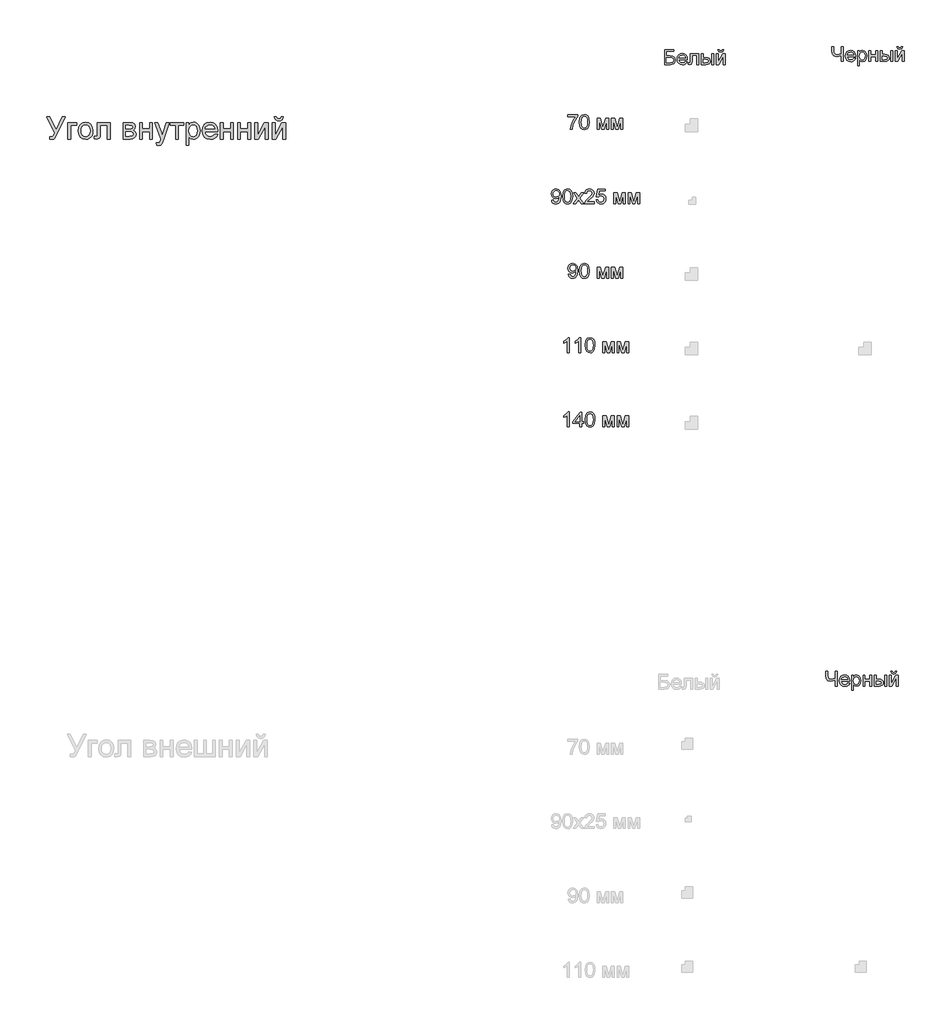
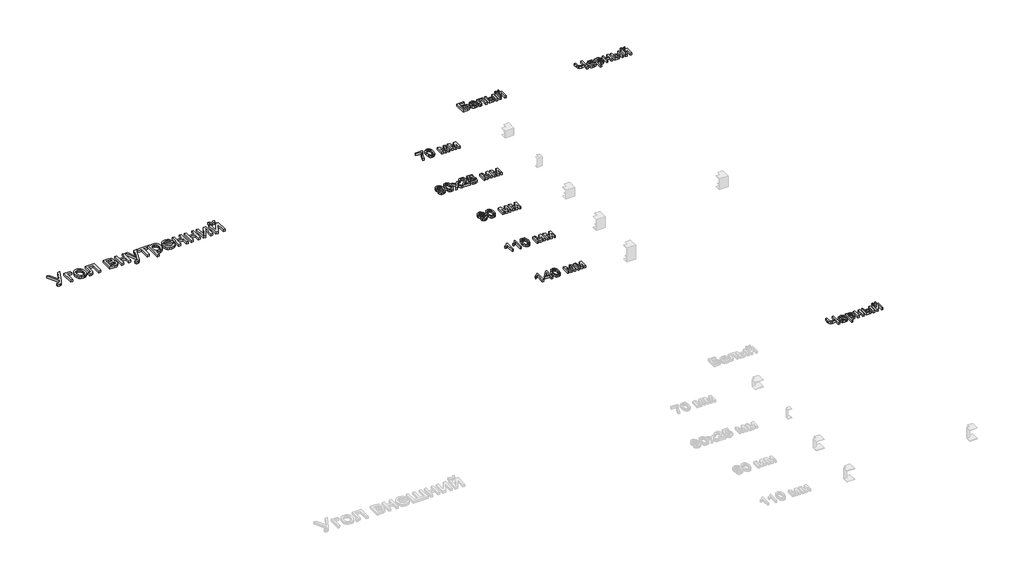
# One storey, part 11 of 48: 9 proxies.
"""IFC4 building model written with IfcOpenShell, lengths in millimetres."""

import ifcopenshell
import ifcopenshell.guid

model = None  # the IFC model being written
_history = None  # IfcOwnerHistory: only IFC2X3 demands one
_inside = {}  # id of a spatial element -> (the spatial element, [elements in it])
_under = {}  # id of a project, library or spatial element -> (it, [spatial elements below it])
_declared = {}  # id of a project -> (the project, [libraries it declares])
_typed = {}  # id of a type object -> (the type object, [elements of that type])
_made_of = {}  # id of a material, layer set ... -> (it, [elements and type objects made of it])


def new_model(schema):
    """Start an empty IFC model of exactly this schema.

    Asked for "IFC4X3", IfcOpenShell would pick the latest addendum, in which some entities
    have other attributes; the version numbers below select the first issue.
    IFC2X3 requires an IfcOwnerHistory on every rooted entity: one is made here for all.
    """
    global model, _history
    if schema == "IFC4X3":
        model = ifcopenshell.file(schema_version=(4, 3, 0, 0))
    else:
        model = ifcopenshell.file(schema=schema)
    _inside.clear()
    _under.clear()
    _declared.clear()
    _typed.clear()
    _made_of.clear()
    _history = None
    if model.schema == "IFC2X3":
        org = make("IfcOrganization", Name="unknown")
        user = make(
            "IfcPersonAndOrganization",
            ThePerson=make("IfcPerson", FamilyName="unknown"),
            TheOrganization=org,
        )
        app = make(
            "IfcApplication",
            ApplicationDeveloper=org,
            Version="unknown",
            ApplicationFullName="unknown",
            ApplicationIdentifier="unknown",
        )
        _history = make(
            "IfcOwnerHistory",
            OwningUser=user,
            OwningApplication=app,
            ChangeAction="ADDED",
            CreationDate=0,
        )
    return model


def make(cls, **values):
    """One entity of the class cls with the attributes given. An attribute that is None is left unset."""
    return model.create_entity(
        cls, **{name: value for name, value in values.items() if value is not None}
    )


def rooted(cls, **values):
    """An entity with a GlobalId (a new one), such as an element, a storey or a relation."""
    return make(cls, GlobalId=ifcopenshell.guid.new(), OwnerHistory=_history, **values)


def si_unit(unit_type, name, prefix=None):
    """IfcSIUnit, for example si_unit("LENGTHUNIT", "METRE", prefix="MILLI")."""
    return make("IfcSIUnit", UnitType=unit_type, Prefix=prefix, Name=name)


def assignment(units):
    """IfcUnitAssignment: the units of a project."""
    return None if units is None else make("IfcUnitAssignment", Units=units)


def point(xyz):
    """IfcCartesianPoint."""
    return None if xyz is None else make("IfcCartesianPoint", Coordinates=xyz)


def direction(xyz):
    """IfcDirection."""
    return None if xyz is None else make("IfcDirection", DirectionRatios=xyz)


def frame(location, z_axis=None, x_axis=None):
    """IfcAxis2Placement3D, a coordinate frame: its origin and axes. An axis left out is left unset."""
    return make(
        "IfcAxis2Placement3D",
        Location=point(location),
        Axis=direction(z_axis),
        RefDirection=direction(x_axis),
    )


def origin():
    """The frame at (0, 0, 0) with its axes left unset."""
    return frame((0.0, 0.0, 0.0))


def origin_with_axes():
    """The frame at (0, 0, 0) with the z axis (0, 0, 1) and the x axis (1, 0, 0) written out."""
    return frame((0.0, 0.0, 0.0), z_axis=(0.0, 0.0, 1.0), x_axis=(1.0, 0.0, 0.0))


def place(relative_to, where):
    """IfcLocalPlacement: puts the frame where relative to a parent placement (None: the world)."""
    return make(
        "IfcLocalPlacement", PlacementRelTo=relative_to, RelativePlacement=where
    )


def context(
    kind, dimensions, precision=None, world=None, true_north=None, identifier=None
):
    """IfcGeometricRepresentationContext, for example the 3D "Model" context."""
    return make(
        "IfcGeometricRepresentationContext",
        ContextIdentifier=identifier,
        ContextType=kind,
        CoordinateSpaceDimension=dimensions,
        Precision=precision,
        WorldCoordinateSystem=world,
        TrueNorth=true_north,
    )


def project(units=None, contexts=None):
    """IfcProject with its units and contexts."""
    return rooted(
        "IfcProject",
        Name="project",
        RepresentationContexts=contexts,
        UnitsInContext=assignment(units),
    )


def spatial(cls, under=None, at=None, **own):
    """A site, building, storey or space (cls), placed at a placement, below another one or the project."""
    s = rooted(cls, ObjectPlacement=at, **own)
    if under is not None:
        _under.setdefault(under.id(), (under, []))[1].append(s)
    return s


def polyline(points):
    """IfcPolyline through the points."""
    return make("IfcPolyline", Points=[point(p) for p in points])


def outline(outer, holes=None, kind="AREA"):
    """IfcArbitraryClosedProfileDef: a profile drawn as a closed curve; with holes, ...WithVoids."""
    if holes is None:
        return make("IfcArbitraryClosedProfileDef", ProfileType=kind, OuterCurve=outer)
    return make(
        "IfcArbitraryProfileDefWithVoids",
        ProfileType=kind,
        OuterCurve=outer,
        InnerCurves=holes,
    )


def extrude(swept, where, along, depth):
    """IfcExtrudedAreaSolid: the profile swept, set in the frame where, extruded along a direction by depth."""
    return make(
        "IfcExtrudedAreaSolid",
        SweptArea=swept,
        Position=where,
        ExtrudedDirection=direction(along),
        Depth=depth,
    )


def shape(context_of_items, identifier, shape_type, items):
    """IfcShapeRepresentation: the items that make up one representation, for example the "Body"."""
    return make(
        "IfcShapeRepresentation",
        ContextOfItems=context_of_items,
        RepresentationIdentifier=identifier,
        RepresentationType=shape_type,
        Items=items,
    )


def made_of(thing, what):
    """Note that an element or type object is made of a material, layer set ...; save() writes the relation."""
    if what is not None:
        _made_of.setdefault(what.id(), (what, []))[1].append(thing)
    return thing


def element(
    cls,
    number,
    at=None,
    inside=None,
    cuts=None,
    type_object=None,
    material=None,
    context=None,
    identifier="Body",
    shape_type=None,
    held_by="IfcProductDefinitionShape",
    body=None,
    shapes=None,
    **own,
):
    """One element of the class cls, such as IfcWall. Its Tag is "e" and its number.

    at: its placement. inside: the storey or other place that contains it. cuts: it is an
    opening in that element (IfcRelVoidsElement). A single representation is given by context,
    identifier, shape_type and body (its items); several are given by shapes. held_by: the class
    of the entity that holds the representations. save() writes the other relations.
    """
    e = rooted(cls, Tag="e%d" % number, ObjectPlacement=at, **own)
    if body is not None:
        shapes = [shape(context, identifier, shape_type, body)]
    if shapes is not None:
        e.Representation = make(held_by, Representations=shapes)
    if inside is not None:
        _inside.setdefault(inside.id(), (inside, []))[1].append(e)
    if cuts is not None:
        rooted(
            "IfcRelVoidsElement", RelatingBuildingElement=cuts, RelatedOpeningElement=e
        )
    if type_object is not None:
        _typed.setdefault(type_object.id(), (type_object, []))[1].append(e)
    return made_of(e, material)


def aggregate(whole, parts):
    """IfcRelAggregates: a whole, such as a stair, and the parts it consists of."""
    return rooted("IfcRelAggregates", RelatingObject=whole, RelatedObjects=parts)


def save(model, path):
    """Write the relations noted so far, then the file.

    IfcRelAggregates (storeys below a building ...), IfcRelContainedInSpatialStructure (elements
    in a storey), IfcRelDefinesByType, IfcRelAssociatesMaterial and IfcRelDeclares: one each for
    every whole, place, type object, material and project.
    """
    for whole, parts in _under.values():
        aggregate(whole, parts)
    for where, things in _inside.values():
        rooted(
            "IfcRelContainedInSpatialStructure",
            RelatedElements=things,
            RelatingStructure=where,
        )
    for kind, things in _typed.values():
        rooted("IfcRelDefinesByType", RelatedObjects=things, RelatingType=kind)
    for what, things in _made_of.values():
        rooted("IfcRelAssociatesMaterial", RelatedObjects=things, RelatingMaterial=what)
    for by, libraries in _declared.values():
        rooted("IfcRelDeclares", RelatingContext=by, RelatedDefinitions=libraries)
    model.write(path)


model = new_model("IFC4")

# Units and contexts
model_context = context("Model", 3, world=origin())
ifc_project = project(units=[si_unit("LENGTHUNIT", "METRE", prefix="MILLI")], contexts=[model_context])

# Site, building, storey
site = spatial("IfcSite", under=ifc_project)
building = spatial("IfcBuilding", under=site)
storey = spatial("IfcBuildingStorey", under=building, Name="Этаж 01", Elevation=0.0)

# Proxies
placement = place(None, origin())
element("IfcBuildingElementProxy", 1, Name="150 мм Arial", ObjectType="150 мм Arial", at=placement, inside=storey, context=model_context, shape_type="SweptSolid", body=[
    extrude(outline(polyline([(8696.2337911, -8936.7458416), (8717.0927002, -8936.7458416), (8762.1582446, -9025.9940136), (8802.6988405, -8936.7458416), (8823.3738086, -8936.7458416), (8766.1681584, -9054.1369862), (8750.60675, -9082.9789346), (8743.2215189, -9088.0832973), (8733.2059316, -9089.7847515), (8716.2465716, -9087.4303068), (8716.2465716, -9070.9491934), (8731.0722161, -9070.9491934), (8742.0718877, -9066.7553386), (8752.262219, -9047.6622631), (8696.2337911, -8936.7458416)])), origin_with_axes(), (0.0, 0.0, 1.0), 20.0),
    extrude(outline(polyline([(8838.6776996, -8976.7714026), (8899.8932636, -8976.7714026), (8899.8932636, -8995.6069608), (8857.5132578, -8995.6069608), (8857.5132578, -9087.4303068), (8838.6776996, -9087.4303068), (8838.6776996, -8976.7714026)])), origin_with_axes(), (0.0, 0.0, 1.0), 20.0),
    extrude(outline(polyline([(8909.3110427, -9032.1008547), (8913.3853358, -9005.420213), (8925.6082151, -8986.6674283), (8940.709771, -8977.4795755), (8958.7911711, -8974.4169579), (8978.5786239, -8978.1463616), (8994.3837541, -8989.3345728), (9004.7442308, -9007.0986746), (9008.197723, -9030.5557503), (9006.6710127, -9049.5844465), (9002.0908819, -9064.0698001), (8994.5906877, -9074.9177204), (8984.3037874, -9083.0341169), (8972.0855067, -9088.0970929), (8958.7911711, -9089.7847515), (8938.764595, -9086.0691434), (8922.9778588, -9074.9223189), (8912.7277467, -9056.7857366), (8909.3110427, -9032.1008547)]), holes=[polyline([(8928.1466009, -9032.0640665), (8930.3263017, -9049.1107985), (8936.8654042, -9061.2555028), (8946.7062475, -9068.5257708), (8958.7911711, -9070.9491934), (8970.8209123, -9068.5119752), (8980.6433616, -9061.2003205), (8987.182464, -9048.8946678), (8989.3621649, -9031.4754553), (8987.1686685, -9014.9253641), (8980.5881793, -9002.9462066), (8970.7519344, -8995.6759387), (8958.7911711, -8993.252516), (8946.7062475, -8995.6667416), (8936.8654042, -9002.9094184), (8930.3263017, -9015.0265316), (8928.1466009, -9032.0640665)])]), origin_with_axes(), (0.0, 0.0, 1.0), 20.0),
    extrude(outline(polyline([(9038.805505, -8976.7714026), (9123.5655167, -8976.7714026), (9123.5655167, -9087.3199422), (9104.7299586, -9087.3199422), (9104.7299586, -8995.6069608), (9057.6410632, -8995.6069608), (9057.6410632, -9048.3980271), (9056.3718703, -9072.7518152), (9049.4005065, -9083.0341169), (9032.9193931, -9087.4303068), (9017.6155021, -9086.4738136), (9017.6155021, -9068.5947486), (9026.0399998, -9068.5947486), (9034.556468, -9067.4359203), (9037.9593764, -9063.7571004), (9038.805505, -9047.3311693), (9038.805505, -8976.7714026)])), origin_with_axes(), (0.0, 0.0, 1.0), 20.0),
    extrude(outline(polyline([(9210.6799732, -8976.7714026), (9252.1770622, -8976.7714026), (9274.9305636, -8979.2913943), (9287.7328571, -8988.5252324), (9293.0855401, -9004.6200697), (9289.8481785, -9017.6982746), (9280.0993057, -9027.0240832), (9292.7544463, -9037.2328085), (9297.7944296, -9054.9831148), (9294.6030533, -9069.3397097), (9287.0154872, -9079.4472675), (9275.00414, -9085.434547), (9258.5414207, -9087.4303068), (9210.6799732, -9087.4303068), (9210.6799732, -8976.7714026)]), holes=[polyline([(9229.5155313, -9019.1514085), (9248.1303603, -9019.1514085), (9263.4894336, -9018.1949153), (9270.9574381, -9014.3689425), (9274.2499819, -9007.452761), (9272.8060451, -9001.8333636), (9268.4742346, -8998.2189229), (9248.7189715, -8995.6069608), (9229.5155313, -8995.6069608), (9229.5155313, -9019.1514085)]), polyline([(9229.5155313, -9068.5947486), (9252.6185206, -9068.5947486), (9273.1095477, -9065.1918402), (9277.3493877, -9060.5519285), (9278.9588715, -9053.4380104), (9275.739904, -9044.3697192), (9267.3521945, -9039.0906126), (9250.7791106, -9037.9869666), (9229.5155313, -9037.9869666), (9229.5155313, -9068.5947486)])]), origin_with_axes(), (0.0, 0.0, 1.0), 20.0),
    extrude(outline(polyline([(9321.3388773, -8976.7714026), (9340.1744355, -8976.7714026), (9340.1744355, -9019.1514085), (9389.6177756, -9019.1514085), (9389.6177756, -8976.7714026), (9408.4533338, -8976.7714026), (9408.4533338, -9087.4303068), (9389.6177756, -9087.4303068), (9389.6177756, -9037.9869666), (9340.1744355, -9037.9869666), (9340.1744355, -9087.4303068), (9321.3388773, -9087.4303068), (9321.3388773, -8976.7714026)])), origin_with_axes(), (0.0, 0.0, 1.0), 20.0),
    extrude(outline(polyline([(9436.706671, -9129.8103126), (9434.3522262, -9111.6737303), (9443.9171581, -9113.3291992), (9452.8566906, -9111.250666), (9458.3381323, -9105.4565245), (9463.4884803, -9091.5873733), (9464.9600082, -9087.0256366), (9424.9344472, -8976.7714026), (9444.8000749, -8976.7714026), (9466.026866, -9038.2076958), (9473.4212941, -9062.7822131), (9480.8157222, -9041.0771754), (9502.6311245, -8976.7714026), (9522.3495995, -8976.7714026), (9483.8323546, -9090.0790571), (9473.8259643, -9114.6535744), (9462.8998691, -9127.9341144), (9448.2213775, -9132.1647574), (9436.706671, -9129.8103126)])), origin_with_axes(), (0.0, 0.0, 1.0), 20.0),
    extrude(outline(polyline([(9528.530017, -8976.7714026), (9617.9989182, -8976.7714026), (9617.9989182, -8995.6069608), (9582.6822467, -8995.6069608), (9582.6822467, -9087.4303068), (9563.8466885, -9087.4303068), (9563.8466885, -8995.6069608), (9528.530017, -8995.6069608), (9528.530017, -8976.7714026)])), origin_with_axes(), (0.0, 0.0, 1.0), 20.0),
    extrude(outline(polyline([(9634.4800316, -9129.8103126), (9634.4800316, -8976.7714026), (9653.3155898, -8976.7714026), (9653.3155898, -8995.2390788), (9666.3386124, -8979.6224881), (9683.9233718, -8974.4169579), (9696.6612858, -8976.2379737), (9707.7989132, -8981.7010214), (9716.8672044, -8990.4750069), (9723.3971098, -9002.2288367), (9728.6578224, -9031.2547261), (9727.1724988, -9047.363359), (9722.7165282, -9061.7705376), (9715.4324646, -9073.7450966), (9705.4628626, -9082.5558703), (9693.8515871, -9087.9775312), (9681.6425034, -9089.7847515), (9665.2533605, -9084.9471033), (9653.3155898, -9072.715027), (9653.3155898, -9129.8103126), (9634.4800316, -9129.8103126)]), holes=[polyline([(9653.3155898, -9032.9837715), (9655.3527363, -9049.8695551), (9661.464176, -9061.6785671), (9670.4818834, -9068.6315368), (9681.2378332, -9070.9491934), (9692.168527, -9068.5487634), (9701.4161606, -9061.3474733), (9707.7207383, -9049.1061999), (9709.8222642, -9031.5858199), (9707.7713221, -9014.7920068), (9701.6184957, -9002.8174479), (9692.6145839, -8995.643749), (9682.0103854, -8993.252516), (9671.3648001, -8995.7955003), (9662.0159989, -9003.4244532), (9655.4906921, -9015.9002513), (9653.3155898, -9032.9837715)])]), origin_with_axes(), (0.0, 0.0, 1.0), 20.0),
    extrude(outline(polyline([(9827.3237735, -9054.46808), (9845.7914496, -9056.8225248), (9839.137384, -9070.7376612), (9828.51939, -9081.1395247), (9814.1765907, -9087.6234448), (9796.3481095, -9089.7847515), (9774.2475986, -9086.0553478), (9757.2422534, -9074.8671366), (9746.3989316, -9056.946685), (9742.784491, -9033.0205597), (9746.4357198, -9008.2896926), (9757.3894062, -8989.7944253), (9774.1648252, -8978.2613247), (9795.2812517, -8974.4169579), (9815.7400892, -8978.2521277), (9832.0878453, -8989.7576371), (9842.807007, -9008.2161162), (9846.3800608, -9032.9101951), (9846.2696962, -9037.9869666), (9761.6200491, -9037.9869666), (9764.8804033, -9052.0860441), (9772.4541739, -9062.4511193), (9783.3848677, -9068.8246749), (9796.7159915, -9070.9491934), (9815.1836676, -9067.012856), (9827.3237735, -9054.46808)]), holes=[polyline([(9761.6200491, -9019.1514085), (9827.5445027, -9019.1514085), (9824.9969199, -9009.2002005), (9820.0029218, -9002.0816839), (9809.0216442, -8995.459808), (9795.2076753, -8993.252516), (9782.5111479, -8995.0137511), (9772.0127155, -9000.2974562), (9764.7148564, -9008.5334144), (9761.6200491, -9019.1514085)])]), origin_with_axes(), (0.0, 0.0, 1.0), 20.0),
    extrude(outline(polyline([(9865.215619, -8976.7714026), (9884.0511771, -8976.7714026), (9884.0511771, -9019.1514085), (9933.4945173, -9019.1514085), (9933.4945173, -8976.7714026), (9952.3300754, -8976.7714026), (9952.3300754, -9087.4303068), (9933.4945173, -9087.4303068), (9933.4945173, -9037.9869666), (9884.0511771, -9037.9869666), (9884.0511771, -9087.4303068), (9865.215619, -9087.4303068), (9865.215619, -8976.7714026)])), origin_with_axes(), (0.0, 0.0, 1.0), 20.0),
    extrude(outline(polyline([(9980.5834127, -8976.7714026), (9999.4189708, -8976.7714026), (9999.4189708, -9019.1514085), (10048.862311, -9019.1514085), (10048.862311, -8976.7714026), (10067.6978691, -8976.7714026), (10067.6978691, -9087.4303068), (10048.862311, -9087.4303068), (10048.862311, -9037.9869666), (9999.4189708, -9037.9869666), (9999.4189708, -9087.4303068), (9980.5834127, -9087.4303068), (9980.5834127, -8976.7714026)])), origin_with_axes(), (0.0, 0.0, 1.0), 20.0),
    extrude(outline(polyline([(10095.9512064, -8976.7714026), (10114.7867645, -8976.7714026), (10114.7867645, -9061.1635323), (10161.0663195, -8976.7714026), (10185.4201076, -8976.7714026), (10185.4201076, -9087.4303068), (10166.5845494, -9087.4303068), (10166.5845494, -9003.5532119), (10120.5993, -9087.4303068), (10095.9512064, -9087.4303068), (10095.9512064, -8976.7714026)])), origin_with_axes(), (0.0, 0.0, 1.0), 20.0),
    extrude(outline(polyline([(10213.6734448, -8976.7714026), (10232.509003, -8976.7714026), (10232.509003, -9061.1635323), (10278.788558, -8976.7714026), (10303.142346, -8976.7714026), (10303.142346, -9087.4303068), (10284.3067879, -9087.4303068), (10284.3067879, -9003.5532119), (10238.3215385, -9087.4303068), (10213.6734448, -9087.4303068), (10213.6734448, -8976.7714026)])), origin_with_axes(), (0.0, 0.0, 1.0), 20.0),
    extrude(outline(polyline([(10274.8890088, -8936.7458416), (10289.0156774, -8936.7458416), (10285.9760524, -8948.8077725), (10279.8738098, -8957.6967212), (10270.9848611, -8963.1735644), (10259.5851178, -8964.9991788), (10247.2150857, -8963.18736), (10237.6225627, -8957.7519035), (10231.0650661, -8948.8767503), (10227.8001134, -8936.7458416), (10241.926782, -8936.7458416), (10247.2242828, -8947.3592371), (10257.8928606, -8950.8725102), (10269.5915081, -8947.4696017), (10274.8890088, -8936.7458416)])), origin_with_axes(), (0.0, 0.0, 1.0), 20.0),
])
element("IfcBuildingElementProxy", 2, Name="100 мм Arial", ObjectType="100 мм Arial", at=placement, inside=storey, context=model_context, shape_type="SweptSolid", body=[
    extrude(outline(polyline([(12202.0597089, -8936.7077814), (12202.0597089, -8924.1507427), (12267.9841625, -8924.1507427), (12267.9841625, -8934.3042857), (12249.2834944, -8961.3190869), (12234.9728848, -8995.7405789), (12230.3130462, -9023.037423), (12217.7560074, -9023.037423), (12222.7469398, -8994.7105093), (12236.4444127, -8962.692513), (12255.4271237, -8936.7077814), (12202.0597089, -8936.7077814)])), origin_with_axes(), (0.0, 0.0, 1.0), 20.0),
    extrude(outline(polyline([(12278.9715714, -8973.6186083), (12282.6626541, -8944.7153462), (12293.6255375, -8928.0502918), (12311.9337982, -8922.5811128), (12326.600027, -8925.8184744), (12336.7290446, -8935.1504143), (12342.6151566, -8950.0128469), (12344.8960249, -8973.6186083), (12341.2417304, -9002.399243), (12330.3156352, -9019.1010856), (12322.0842755, -9023.230561), (12311.9337982, -9024.6070528), (12298.8862501, -9022.2158198), (12288.9779617, -9015.0421209), (12281.473169, -8998.0521041), (12278.9715714, -8973.6186083)]), holes=[polyline([(12291.5286102, -8973.5940828), (12293.0001381, -8993.3462803), (12297.4147221, -9004.7782133), (12303.9875471, -9010.2320638), (12311.9337982, -9012.050014), (12319.8800493, -9010.2259325), (12326.4528742, -9004.7536878), (12330.8674582, -8993.3156234), (12332.3389862, -8973.5940828), (12330.9165091, -8954.2864094), (12326.649078, -8942.7655716), (12320.0885157, -8937.0450066), (12311.7866454, -8935.1381516), (12303.9262334, -8936.818146), (12297.6109258, -8941.8581294), (12293.0491891, -8954.0963371), (12291.5286102, -8973.5940828)])]), origin_with_axes(), (0.0, 0.0, 1.0), 20.0),
    extrude(outline(polyline([(12398.2634397, -8949.2648202), (12419.8703755, -8949.2648202), (12436.5231672, -9008.3221432), (12454.4758086, -8949.2648202), (12475.1753022, -8949.2648202), (12475.1753022, -9023.037423), (12462.6182634, -9023.037423), (12462.6182634, -8963.6367435), (12444.5675202, -9023.037423), (12428.0864068, -9023.037423), (12410.8204785, -8960.7917894), (12410.8204785, -9023.037423), (12398.2634397, -9023.037423), (12398.2634397, -8949.2648202)])), origin_with_axes(), (0.0, 0.0, 1.0), 20.0),
    extrude(outline(polyline([(12494.0108603, -8949.2648202), (12515.6177962, -8949.2648202), (12532.2705878, -9008.3221432), (12550.2232292, -8949.2648202), (12570.9227228, -8949.2648202), (12570.9227228, -9023.037423), (12558.365684, -9023.037423), (12558.365684, -8963.6367435), (12540.3149408, -9023.037423), (12523.8338274, -9023.037423), (12506.5678991, -8960.7917894), (12506.5678991, -9023.037423), (12494.0108603, -9023.037423), (12494.0108603, -8949.2648202)])), origin_with_axes(), (0.0, 0.0, 1.0), 20.0),
])
element("IfcBuildingElementProxy", 3, Name="100 мм Arial", ObjectType="100 мм Arial", at=placement, inside=storey, context=model_context, shape_type="SweptSolid", body=[
    extrude(outline(polyline([(12091.4008048, -9497.9233454), (12103.9578436, -9496.3537156), (12109.5987008, -9508.3344059), (12120.2918041, -9512.050014), (12130.4576099, -9509.6587811), (12137.349266, -9503.2698971), (12141.4572816, -9492.3560646), (12143.2721661, -9477.7879376), (12143.1985897, -9475.3353909), (12133.1554112, -9484.8512719), (12119.3843619, -9488.5055663), (12107.9340348, -9486.2737489), (12098.4028254, -9479.5782966), (12091.9740876, -9469.2346812), (12089.8311749, -9456.0583744), (12092.0783208, -9442.4467406), (12098.8197584, -9431.7781627), (12108.9457103, -9424.8803753), (12121.3463992, -9422.5811128), (12139.2377269, -9427.8295626), (12151.549511, -9442.7900971), (12155.7556285, -9470.8962815), (12151.5617737, -9501.3936989), (12146.3470464, -9511.3847608), (12139.0905741, -9518.67189), (12130.1050564, -9523.1232621), (12119.7031929, -9524.6070528), (12108.9671701, -9522.8565476), (12100.4016509, -9517.6050322), (12094.4113058, -9509.1836002), (12091.4008048, -9497.9233454)]), holes=[polyline([(12143.1985897, -9455.7640688), (12141.8435577, -9447.253732), (12137.7784616, -9440.7054324), (12131.4692854, -9436.5299718), (12123.3820129, -9435.1381516), (12114.9943034, -9436.6372707), (12108.2743256, -9441.1346281), (12103.8597417, -9448.0170871), (12102.3882137, -9456.671511), (12103.7800339, -9464.4307554), (12107.9554946, -9470.5897132), (12114.5099254, -9474.608824), (12123.0386564, -9475.9485276), (12137.5209442, -9470.5897132), (12141.7791783, -9464.2038949), (12143.1985897, -9455.7640688)])]), origin_with_axes(), (0.0, 0.0, 1.0), 20.0),
    extrude(outline(polyline([(12166.7430374, -9473.6186083), (12170.4341201, -9444.7153462), (12181.3970035, -9428.0502918), (12199.7052642, -9422.5811128), (12214.371493, -9425.8184744), (12224.5005106, -9435.1504143), (12230.3866226, -9450.0128469), (12232.6674909, -9473.6186083), (12229.0131964, -9502.399243), (12218.0871012, -9519.1010856), (12209.8557415, -9523.230561), (12199.7052642, -9524.6070528), (12186.6577161, -9522.2158198), (12176.7494277, -9515.0421209), (12169.244635, -9498.0521041), (12166.7430374, -9473.6186083)]), holes=[polyline([(12179.3000762, -9473.5940828), (12180.7716041, -9493.3462803), (12185.1861881, -9504.7782133), (12191.7590131, -9510.2320638), (12199.7052642, -9512.050014), (12207.6515153, -9510.2259325), (12214.2243402, -9504.7536878), (12218.6389242, -9493.3156234), (12220.1104522, -9473.5940828), (12218.6879751, -9454.2864094), (12214.420544, -9442.7655716), (12207.8599817, -9437.0450066), (12199.5581114, -9435.1381516), (12191.6976994, -9436.818146), (12185.3823918, -9441.8581294), (12180.8206551, -9454.0963371), (12179.3000762, -9473.5940828)])]), origin_with_axes(), (0.0, 0.0, 1.0), 20.0),
    extrude(outline(polyline([(12238.9460103, -9523.037423), (12265.7768705, -9485.9549178), (12240.5156402, -9449.2648202), (12255.6233274, -9449.2648202), (12267.8124842, -9466.923156), (12273.5023924, -9475.2618145), (12278.4320111, -9468.4437349), (12292.3134251, -9449.2648202), (12307.4211124, -9449.2648202), (12280.8845578, -9485.9549178), (12306.4400937, -9523.037423), (12291.3324064, -9523.037423), (12275.954939, -9500.7437741), (12273.1345104, -9496.6725466), (12254.0536976, -9523.037423), (12238.9460103, -9523.037423)])), origin_with_axes(), (0.0, 0.0, 1.0), 20.0),
    extrude(outline(polyline([(12378.6430666, -9510.4803842), (12378.6430666, -9523.037423), (12312.7186131, -9523.037423), (12314.0675137, -9514.3799333), (12321.6949338, -9501.0503424), (12337.4157577, -9486.4944781), (12359.0962699, -9465.5742553), (12364.516398, -9451.3494848), (12359.4028383, -9439.8347784), (12346.0487218, -9435.1381516), (12332.1305197, -9439.7244138), (12326.8452817, -9452.4040799), (12314.2882429, -9450.83445), (12317.3324664, -9438.6882128), (12323.9144885, -9429.8161254), (12333.6909525, -9424.389866), (12346.318502, -9422.5811128), (12359.038022, -9424.5922011), (12368.7960919, -9430.6254658), (12375.0041005, -9439.6385747), (12377.0734368, -9450.5891954), (12374.8416193, -9462.4963093), (12367.4226658, -9474.8080934), (12349.4332362, -9492.012708), (12334.9877365, -9504.0915002), (12329.3223538, -9510.4803842), (12378.6430666, -9510.4803842)])), origin_with_axes(), (0.0, 0.0, 1.0), 20.0),
    extrude(outline(polyline([(12391.2001054, -9496.3537156), (12403.7571442, -9494.7840857), (12410.0847145, -9507.7212692), (12423.205839, -9512.050014), (12432.2066851, -9510.5447635), (12438.9511884, -9506.029012), (12443.1634372, -9499.0239257), (12444.5675202, -9490.0506707), (12439.3068076, -9475.1391872), (12432.7002601, -9471.0373029), (12423.4020427, -9469.6700082), (12412.3778456, -9471.8527747), (12405.326774, -9477.5181574), (12392.7697352, -9475.9485276), (12403.7571442, -9424.1507427), (12452.4156694, -9424.1507427), (12452.4156694, -9436.7077814), (12413.9106872, -9436.7077814), (12408.5396101, -9464.3725075), (12417.5097994, -9458.9278539), (12426.9091844, -9457.1129694), (12438.6415543, -9459.363181), (12448.3812302, -9466.1138156), (12454.9387267, -9476.4022487), (12457.1245589, -9489.2658558), (12455.1563902, -9501.8228946), (12449.2518842, -9512.5650488), (12437.9456442, -9521.5965518), (12423.156788, -9524.6070528), (12410.8235441, -9522.6726066), (12400.9980292, -9516.8692682), (12394.262723, -9507.8714877), (12391.2001054, -9496.3537156)])), origin_with_axes(), (0.0, 0.0, 1.0), 20.0),
    extrude(outline(polyline([(12510.4919737, -9449.2648202), (12532.0989095, -9449.2648202), (12548.7517012, -9508.3221432), (12566.7043426, -9449.2648202), (12587.4038361, -9449.2648202), (12587.4038361, -9523.037423), (12574.8467974, -9523.037423), (12574.8467974, -9463.6367435), (12556.7960541, -9523.037423), (12540.3149408, -9523.037423), (12523.0490125, -9460.7917894), (12523.0490125, -9523.037423), (12510.4919737, -9523.037423), (12510.4919737, -9449.2648202)])), origin_with_axes(), (0.0, 0.0, 1.0), 20.0),
    extrude(outline(polyline([(12606.2393943, -9449.2648202), (12627.8463301, -9449.2648202), (12644.4991218, -9508.3221432), (12662.4517632, -9449.2648202), (12683.1512568, -9449.2648202), (12683.1512568, -9523.037423), (12670.594218, -9523.037423), (12670.594218, -9463.6367435), (12652.5434748, -9523.037423), (12636.0623614, -9523.037423), (12618.7964331, -9460.7917894), (12618.7964331, -9523.037423), (12606.2393943, -9523.037423), (12606.2393943, -9449.2648202)])), origin_with_axes(), (0.0, 0.0, 1.0), 20.0),
])
element("IfcBuildingElementProxy", 4, Name="100 мм Arial", ObjectType="100 мм Arial", at=placement, inside=storey, context=model_context, shape_type="SweptSolid", body=[
    extrude(outline(polyline([(12203.6293388, -9997.9233454), (12216.1863775, -9996.3537156), (12221.8272348, -10008.3344059), (12232.5203381, -10012.050014), (12242.6861439, -10009.6587811), (12249.5778, -10003.2698971), (12253.6858156, -9992.3560646), (12255.5007001, -9977.7879376), (12255.4271237, -9975.3353909), (12245.3839452, -9984.8512719), (12231.6128959, -9988.5055663), (12220.1625688, -9986.2737489), (12210.6313594, -9979.5782966), (12204.2026216, -9969.2346812), (12202.0597089, -9956.0583744), (12204.3068548, -9942.4467406), (12211.0482923, -9931.7781627), (12221.1742443, -9924.8803753), (12233.5749332, -9922.5811128), (12251.4662609, -9927.8295626), (12263.778045, -9942.7900971), (12267.9841625, -9970.8962815), (12263.7903077, -10001.3936989), (12258.5755804, -10011.3847608), (12251.3191081, -10018.67189), (12242.3335904, -10023.1232621), (12231.9317269, -10024.6070528), (12221.195704, -10022.8565476), (12212.6301849, -10017.6050322), (12206.6398398, -10009.1836002), (12203.6293388, -9997.9233454)]), holes=[polyline([(12255.4271237, -9955.7640688), (12254.0720917, -9947.253732), (12250.0069956, -9940.7054324), (12243.6978194, -9936.5299718), (12235.6105469, -9935.1381516), (12227.2228374, -9936.6372707), (12220.5028596, -9941.1346281), (12216.0882757, -9948.0170871), (12214.6167477, -9956.671511), (12216.0085679, -9964.4307554), (12220.1840286, -9970.5897132), (12226.7384594, -9974.608824), (12235.2671904, -9975.9485276), (12249.7494782, -9970.5897132), (12254.0077123, -9964.2038949), (12255.4271237, -9955.7640688)])]), origin_with_axes(), (0.0, 0.0, 1.0), 20.0),
    extrude(outline(polyline([(12278.9715714, -9973.6186083), (12282.6626541, -9944.7153462), (12293.6255375, -9928.0502918), (12311.9337982, -9922.5811128), (12326.600027, -9925.8184744), (12336.7290446, -9935.1504143), (12342.6151566, -9950.0128469), (12344.8960249, -9973.6186083), (12341.2417304, -10002.399243), (12330.3156352, -10019.1010856), (12322.0842755, -10023.230561), (12311.9337982, -10024.6070528), (12298.8862501, -10022.2158198), (12288.9779617, -10015.0421209), (12281.473169, -9998.0521041), (12278.9715714, -9973.6186083)]), holes=[polyline([(12291.5286102, -9973.5940828), (12293.0001381, -9993.3462803), (12297.4147221, -10004.7782133), (12303.9875471, -10010.2320638), (12311.9337982, -10012.050014), (12319.8800493, -10010.2259325), (12326.4528742, -10004.7536878), (12330.8674582, -9993.3156234), (12332.3389862, -9973.5940828), (12330.9165091, -9954.2864094), (12326.649078, -9942.7655716), (12320.0885157, -9937.0450066), (12311.7866454, -9935.1381516), (12303.9262334, -9936.818146), (12297.6109258, -9941.8581294), (12293.0491891, -9954.0963371), (12291.5286102, -9973.5940828)])]), origin_with_axes(), (0.0, 0.0, 1.0), 20.0),
    extrude(outline(polyline([(12398.2634397, -9949.2648202), (12419.8703755, -9949.2648202), (12436.5231672, -10008.3221432), (12454.4758086, -9949.2648202), (12475.1753022, -9949.2648202), (12475.1753022, -10023.037423), (12462.6182634, -10023.037423), (12462.6182634, -9963.6367435), (12444.5675202, -10023.037423), (12428.0864068, -10023.037423), (12410.8204785, -9960.7917894), (12410.8204785, -10023.037423), (12398.2634397, -10023.037423), (12398.2634397, -9949.2648202)])), origin_with_axes(), (0.0, 0.0, 1.0), 20.0),
    extrude(outline(polyline([(12494.0108603, -9949.2648202), (12515.6177962, -9949.2648202), (12532.2705878, -10008.3221432), (12550.2232292, -9949.2648202), (12570.9227228, -9949.2648202), (12570.9227228, -10023.037423), (12558.365684, -10023.037423), (12558.365684, -9963.6367435), (12540.3149408, -10023.037423), (12523.8338274, -10023.037423), (12506.5678991, -9960.7917894), (12506.5678991, -10023.037423), (12494.0108603, -10023.037423), (12494.0108603, -9949.2648202)])), origin_with_axes(), (0.0, 0.0, 1.0), 20.0),
])
element("IfcBuildingElementProxy", 5, Name="100 мм Arial", ObjectType="100 мм Arial", at=placement, inside=storey, context=model_context, shape_type="SweptSolid", body=[
    extrude(outline(polyline([(12210.6926731, -10523.037423), (12198.1356343, -10523.037423), (12198.1356343, -10444.7521344), (12186.2407831, -10453.225683), (12173.0215568, -10459.5655161), (12173.0215568, -10447.6951903), (12191.4279193, -10435.947492), (12202.5992692, -10422.5811128), (12210.6926731, -10422.5811128), (12210.6926731, -10523.037423)])), origin_with_axes(), (0.0, 0.0, 1.0), 20.0),
    extrude(outline(polyline([(12287.6045355, -10523.037423), (12275.0474968, -10523.037423), (12275.0474968, -10444.7521344), (12263.1526456, -10453.225683), (12249.9334192, -10459.5655161), (12249.9334192, -10447.6951903), (12268.3397817, -10435.947492), (12279.5111316, -10422.5811128), (12287.6045355, -10422.5811128), (12287.6045355, -10523.037423)])), origin_with_axes(), (0.0, 0.0, 1.0), 20.0),
    extrude(outline(polyline([(12317.4275026, -10473.6186083), (12321.1185853, -10444.7153462), (12332.0814688, -10428.0502918), (12350.3897294, -10422.5811128), (12365.0559583, -10425.8184744), (12375.1849759, -10435.1504143), (12381.0710878, -10450.0128469), (12383.3519562, -10473.6186083), (12379.6976617, -10502.399243), (12368.7715664, -10519.1010856), (12360.5402068, -10523.230561), (12350.3897294, -10524.6070528), (12337.3421813, -10522.2158198), (12327.4338929, -10515.0421209), (12319.9291002, -10498.0521041), (12317.4275026, -10473.6186083)]), holes=[polyline([(12329.9845414, -10473.5940828), (12331.4560694, -10493.3462803), (12335.8706533, -10504.7782133), (12342.4434783, -10510.2320638), (12350.3897294, -10512.050014), (12358.3359805, -10510.2259325), (12364.9088055, -10504.7536878), (12369.3233894, -10493.3156234), (12370.7949174, -10473.5940828), (12369.3724403, -10454.2864094), (12365.1050092, -10442.7655716), (12358.5444469, -10437.0450066), (12350.2425766, -10435.1381516), (12342.3821646, -10436.818146), (12336.066857, -10441.8581294), (12331.5051203, -10454.0963371), (12329.9845414, -10473.5940828)])]), origin_with_axes(), (0.0, 0.0, 1.0), 20.0),
    extrude(outline(polyline([(12436.7193709, -10449.2648202), (12458.3263068, -10449.2648202), (12474.9790984, -10508.3221432), (12492.9317398, -10449.2648202), (12513.6312334, -10449.2648202), (12513.6312334, -10523.037423), (12501.0741946, -10523.037423), (12501.0741946, -10463.6367435), (12483.0234514, -10523.037423), (12466.542338, -10523.037423), (12449.2764097, -10460.7917894), (12449.2764097, -10523.037423), (12436.7193709, -10523.037423), (12436.7193709, -10449.2648202)])), origin_with_axes(), (0.0, 0.0, 1.0), 20.0),
    extrude(outline(polyline([(12532.4667915, -10449.2648202), (12554.0737274, -10449.2648202), (12570.726519, -10508.3221432), (12588.6791604, -10449.2648202), (12609.378654, -10449.2648202), (12609.378654, -10523.037423), (12596.8216152, -10523.037423), (12596.8216152, -10463.6367435), (12578.770872, -10523.037423), (12562.2897586, -10523.037423), (12545.0238303, -10460.7917894), (12545.0238303, -10523.037423), (12532.4667915, -10523.037423), (12532.4667915, -10449.2648202)])), origin_with_axes(), (0.0, 0.0, 1.0), 20.0),
])
element("IfcBuildingElementProxy", 6, Name="100 мм Arial", ObjectType="100 мм Arial", at=placement, inside=storey, context=model_context, shape_type="SweptSolid", body=[
    extrude(outline(polyline([(12210.6926731, -11023.037423), (12198.1356343, -11023.037423), (12198.1356343, -10944.7521344), (12186.2407831, -10953.225683), (12173.0215568, -10959.5655161), (12173.0215568, -10947.6951903), (12191.4279193, -10935.947492), (12202.5992692, -10922.5811128), (12210.6926731, -10922.5811128), (12210.6926731, -11023.037423)])), origin_with_axes(), (0.0, 0.0, 1.0), 20.0),
    extrude(outline(polyline([(12281.3260162, -11023.037423), (12281.3260162, -10999.4929753), (12235.8067506, -10999.4929753), (12235.8067506, -10986.9359365), (12284.4652759, -10924.1507427), (12293.8830549, -10924.1507427), (12293.8830549, -10986.9359365), (12306.4400937, -10986.9359365), (12306.4400937, -10999.4929753), (12293.8830549, -10999.4929753), (12293.8830549, -11023.037423), (12281.3260162, -11023.037423)]), holes=[polyline([(12281.3260162, -10986.9359365), (12281.3260162, -10948.1366487), (12251.2577944, -10986.9359365), (12281.3260162, -10986.9359365)])]), origin_with_axes(), (0.0, 0.0, 1.0), 20.0),
    extrude(outline(polyline([(12317.4275026, -10973.6186083), (12321.1185853, -10944.7153462), (12332.0814688, -10928.0502918), (12350.3897294, -10922.5811128), (12365.0559583, -10925.8184744), (12375.1849759, -10935.1504143), (12381.0710878, -10950.0128469), (12383.3519562, -10973.6186083), (12379.6976617, -11002.399243), (12368.7715664, -11019.1010856), (12360.5402068, -11023.230561), (12350.3897294, -11024.6070528), (12337.3421813, -11022.2158198), (12327.4338929, -11015.0421209), (12319.9291002, -10998.0521041), (12317.4275026, -10973.6186083)]), holes=[polyline([(12329.9845414, -10973.5940828), (12331.4560694, -10993.3462803), (12335.8706533, -11004.7782133), (12342.4434783, -11010.2320638), (12350.3897294, -11012.050014), (12358.3359805, -11010.2259325), (12364.9088055, -11004.7536878), (12369.3233894, -10993.3156234), (12370.7949174, -10973.5940828), (12369.3724403, -10954.2864094), (12365.1050092, -10942.7655716), (12358.5444469, -10937.0450066), (12350.2425766, -10935.1381516), (12342.3821646, -10936.818146), (12336.066857, -10941.8581294), (12331.5051203, -10954.0963371), (12329.9845414, -10973.5940828)])]), origin_with_axes(), (0.0, 0.0, 1.0), 20.0),
    extrude(outline(polyline([(12436.7193709, -10949.2648202), (12458.3263068, -10949.2648202), (12474.9790984, -11008.3221432), (12492.9317398, -10949.2648202), (12513.6312334, -10949.2648202), (12513.6312334, -11023.037423), (12501.0741946, -11023.037423), (12501.0741946, -10963.6367435), (12483.0234514, -11023.037423), (12466.542338, -11023.037423), (12449.2764097, -10960.7917894), (12449.2764097, -11023.037423), (12436.7193709, -11023.037423), (12436.7193709, -10949.2648202)])), origin_with_axes(), (0.0, 0.0, 1.0), 20.0),
    extrude(outline(polyline([(12532.4667915, -10949.2648202), (12554.0737274, -10949.2648202), (12570.726519, -11008.3221432), (12588.6791604, -10949.2648202), (12609.378654, -10949.2648202), (12609.378654, -11023.037423), (12596.8216152, -11023.037423), (12596.8216152, -10963.6367435), (12578.770872, -11023.037423), (12562.2897586, -11023.037423), (12545.0238303, -10960.7917894), (12545.0238303, -11023.037423), (12532.4667915, -11023.037423), (12532.4667915, -10949.2648202)])), origin_with_axes(), (0.0, 0.0, 1.0), 20.0),
])
element("IfcBuildingElementProxy", 7, Name="100 мм Arial", ObjectType="100 мм Arial", at=placement, inside=storey, context=model_context, shape_type="SweptSolid", body=[
    extrude(outline(polyline([(12851.066508, -8486.1711167), (12913.8517019, -8486.1711167), (12913.8517019, -8498.7281555), (12863.6235468, -8498.7281555), (12863.6235468, -8528.5511226), (12887.143469, -8528.5511226), (12907.8674881, -8531.1017711), (12920.2037976, -8540.7402794), (12924.8391108, -8557.2213927), (12921.5404356, -8571.5320024), (12911.6934608, -8582.4090467), (12889.3998119, -8586.6274269), (12851.066508, -8586.6274269), (12851.066508, -8486.1711167)]), holes=[polyline([(12863.6235468, -8574.0703881), (12890.5279834, -8574.0703881), (12906.8374185, -8569.9255843), (12910.9209086, -8564.7445795), (12912.282072, -8557.4911729), (12909.1673378, -8547.6564609), (12900.4975854, -8542.4080111), (12881.5761881, -8541.1081614), (12863.6235468, -8541.1081614), (12863.6235468, -8574.0703881)])]), origin_with_axes(), (0.0, 0.0, 1.0), 20.0),
    extrude(outline(polyline([(12992.1860414, -8564.652609), (13004.4978255, -8566.2222389), (13000.0617817, -8575.4989965), (12992.983119, -8582.4335721), (12983.4212528, -8586.7561856), (12971.5355987, -8588.1970567), (12956.8019248, -8585.7107876), (12945.465028, -8578.2519801), (12938.2361468, -8566.3050123), (12935.8265197, -8550.3542622), (12938.2606722, -8533.8670174), (12945.5631298, -8521.5368392), (12956.7467425, -8513.8481055), (12970.8243602, -8511.2851943), (12984.4635851, -8513.8419741), (12995.3620893, -8521.5123137), (13002.508197, -8533.8179665), (13004.8902329, -8550.2806858), (13004.8166565, -8553.6652001), (12948.3835585, -8553.6652001), (12950.5571279, -8563.0645851), (12955.6063083, -8569.9746352), (12962.8934375, -8574.2236723), (12971.7808534, -8575.640018), (12984.0926375, -8573.0157931), (12992.1860414, -8564.652609)]), holes=[polyline([(12948.3835585, -8541.1081614), (12992.3331942, -8541.1081614), (12987.3054736, -8529.728345), (12979.9846219, -8525.313761), (12970.7753092, -8523.842233), (12955.3120027, -8528.5388599), (12950.4467633, -8534.0294986), (12948.3835585, -8541.1081614)])]), origin_with_axes(), (0.0, 0.0, 1.0), 20.0),
    extrude(outline(polyline([(13023.7257911, -8512.8548241), (13080.2324655, -8512.8548241), (13080.2324655, -8586.5538505), (13067.6754268, -8586.5538505), (13067.6754268, -8525.4118629), (13036.2828298, -8525.4118629), (13036.2828298, -8560.6059071), (13035.4367013, -8576.8417658), (13030.7891254, -8583.6966337), (13019.8017165, -8586.6274269), (13009.5991225, -8585.9897648), (13009.5991225, -8574.0703881), (13015.2154543, -8574.0703881), (13020.8930997, -8573.2978359), (13023.1617054, -8570.8452893), (13023.7257911, -8559.8946686), (13023.7257911, -8512.8548241)])), origin_with_axes(), (0.0, 0.0, 1.0), 20.0),
    extrude(outline(polyline([(13168.1317369, -8512.8548241), (13180.6887757, -8512.8548241), (13180.6887757, -8586.6274269), (13168.1317369, -8586.6274269), (13168.1317369, -8512.8548241)])), origin_with_axes(), (0.0, 0.0, 1.0), 20.0),
    extrude(outline(polyline([(13099.0680237, -8512.8548241), (13111.6250625, -8512.8548241), (13111.6250625, -8539.5385315), (13127.1496827, -8539.5385315), (13140.5681784, -8541.111227), (13150.5101894, -8545.8293136), (13156.6630157, -8553.3126465), (13158.7139578, -8563.1810811), (13156.9941095, -8572.1665988), (13151.8345645, -8579.7480336), (13142.8980977, -8584.9075786), (13129.847484, -8586.6274269), (13099.0680237, -8586.6274269), (13099.0680237, -8512.8548241)]), holes=[polyline([(13111.6250625, -8574.0703881), (13124.5254578, -8574.0703881), (13141.1782494, -8571.4339005), (13146.1569191, -8563.2056065), (13142.4658364, -8555.4800846), (13126.168664, -8552.0955703), (13111.6250625, -8552.0955703), (13111.6250625, -8574.0703881)])]), origin_with_axes(), (0.0, 0.0, 1.0), 20.0),
    extrude(outline(polyline([(13199.5243338, -8512.8548241), (13212.0813726, -8512.8548241), (13212.0813726, -8569.1162439), (13242.9344093, -8512.8548241), (13259.170268, -8512.8548241), (13259.170268, -8586.6274269), (13246.6132292, -8586.6274269), (13246.6132292, -8530.7093636), (13215.9563963, -8586.6274269), (13199.5243338, -8586.6274269), (13199.5243338, -8512.8548241)])), origin_with_axes(), (0.0, 0.0, 1.0), 20.0),
    extrude(outline(polyline([(13240.3347098, -8486.1711167), (13249.7524889, -8486.1711167), (13243.6579105, -8500.1383698), (13230.1321158, -8505.0066749), (13215.4904124, -8500.175158), (13208.9421129, -8486.1711167), (13218.359892, -8486.1711167), (13221.8915591, -8493.2467138), (13229.0039444, -8495.5888958), (13236.8030427, -8493.3202902), (13240.3347098, -8486.1711167)])), origin_with_axes(), (0.0, 0.0, 1.0), 20.0),
])
element("IfcBuildingElementProxy", 8, Name="100 мм Arial", ObjectType="100 мм Arial", at=placement, inside=storey, context=model_context, shape_type="SweptSolid", body=[
    extrude(outline(polyline([(14051.6331218, -8566.129378), (14039.076083, -8566.129378), (14039.076083, -8525.9076132), (14007.9777917, -8533.1671512), (13989.6204802, -8528.2007443), (13978.9764278, -8515.5946546), (13976.2908892, -8495.5941368), (13976.2908892, -8465.6730678), (13988.847928, -8465.6730678), (13988.847928, -8493.9018796), (13990.3562442, -8507.4797909), (13994.8811927, -8515.4475018), (14009.3757433, -8520.6101125), (14039.076083, -8514.380644), (14039.076083, -8465.6730678), (14051.6331218, -8465.6730678), (14051.6331218, -8566.129378)])), origin_with_axes(), (0.0, 0.0, 1.0), 20.0),
    extrude(outline(polyline([(14123.6889419, -8544.1545601), (14136.000726, -8545.72419), (14131.5646823, -8555.0009476), (14124.4860196, -8561.9355232), (14114.9241534, -8566.2581367), (14103.0384993, -8567.6990078), (14088.3048254, -8565.2127387), (14076.9679286, -8557.7539312), (14069.7390473, -8545.8069634), (14067.3294203, -8529.8562133), (14069.7635728, -8513.3689685), (14077.0660304, -8501.0387903), (14088.2496431, -8493.3500566), (14102.3272608, -8490.7871454), (14115.9664857, -8493.3439252), (14126.8649898, -8501.0142648), (14134.0110976, -8513.3199176), (14136.3931335, -8529.7826369), (14136.3195571, -8533.1671512), (14079.886459, -8533.1671512), (14082.0600285, -8542.5665362), (14087.1092089, -8549.4765863), (14094.3963381, -8553.7256234), (14103.2837539, -8555.1419691), (14115.595538, -8552.5177442), (14123.6889419, -8544.1545601)]), holes=[polyline([(14079.886459, -8520.6101125), (14123.8360947, -8520.6101125), (14118.8083741, -8509.2302961), (14111.4875224, -8504.8157121), (14102.2782098, -8503.3441841), (14086.8149033, -8508.0408109), (14081.9496639, -8513.5314497), (14079.886459, -8520.6101125)])]), origin_with_axes(), (0.0, 0.0, 1.0), 20.0),
    extrude(outline(polyline([(14148.9501723, -8594.3827152), (14148.9501723, -8492.3567752), (14161.507211, -8492.3567752), (14161.507211, -8504.6685593), (14170.1892261, -8494.2574989), (14181.912399, -8490.7871454), (14197.8294267, -8495.6431877), (14208.2282244, -8509.3283979), (14211.7353661, -8528.6789909), (14207.7745033, -8549.0228652), (14196.2720596, -8562.8797537), (14180.3918201, -8567.6990078), (14169.4657249, -8564.473909), (14161.507211, -8556.3191915), (14161.507211, -8594.3827152), (14148.9501723, -8594.3827152)]), holes=[polyline([(14161.507211, -8529.8316878), (14162.8653087, -8541.0888768), (14166.9396018, -8548.9615515), (14172.9514068, -8553.5968647), (14180.12204, -8555.1419691), (14187.4091692, -8553.5416824), (14193.5742583, -8548.7408223), (14197.7773101, -8540.5799734), (14199.1783274, -8528.8997201), (14197.8110326, -8517.7038447), (14193.7091484, -8509.7208054), (14187.7065405, -8504.9383395), (14180.6370748, -8503.3441841), (14173.540018, -8505.039507), (14167.3074838, -8510.1254756), (14162.9572792, -8518.4426744), (14161.507211, -8529.8316878)])]), origin_with_axes(), (0.0, 0.0, 1.0), 20.0),
    extrude(outline(polyline([(14225.8620347, -8492.3567752), (14238.4190735, -8492.3567752), (14238.4190735, -8520.6101125), (14271.3813003, -8520.6101125), (14271.3813003, -8492.3567752), (14283.938339, -8492.3567752), (14283.938339, -8566.129378), (14271.3813003, -8566.129378), (14271.3813003, -8533.1671512), (14238.4190735, -8533.1671512), (14238.4190735, -8566.129378), (14225.8620347, -8566.129378), (14225.8620347, -8492.3567752)])), origin_with_axes(), (0.0, 0.0, 1.0), 20.0),
    extrude(outline(polyline([(14371.8376104, -8492.3567752), (14384.3946492, -8492.3567752), (14384.3946492, -8566.129378), (14371.8376104, -8566.129378), (14371.8376104, -8492.3567752)])), origin_with_axes(), (0.0, 0.0, 1.0), 20.0),
    extrude(outline(polyline([(14302.7738972, -8492.3567752), (14315.330936, -8492.3567752), (14315.330936, -8519.0404826), (14330.8555562, -8519.0404826), (14344.2740519, -8520.6131781), (14354.2160629, -8525.3312647), (14360.3688892, -8532.8145976), (14362.4198313, -8542.6830322), (14360.699983, -8551.6685499), (14355.540438, -8559.2499847), (14346.6039712, -8564.4095297), (14333.5533575, -8566.129378), (14302.7738972, -8566.129378), (14302.7738972, -8492.3567752)]), holes=[polyline([(14315.330936, -8553.5723392), (14328.2313313, -8553.5723392), (14344.8841229, -8550.9358516), (14349.8627926, -8542.7075576), (14346.1717099, -8534.9820357), (14329.8745375, -8531.5975214), (14315.330936, -8531.5975214), (14315.330936, -8553.5723392)])]), origin_with_axes(), (0.0, 0.0, 1.0), 20.0),
    extrude(outline(polyline([(14403.2302073, -8492.3567752), (14415.7872461, -8492.3567752), (14415.7872461, -8548.618195), (14446.6402828, -8492.3567752), (14462.8761415, -8492.3567752), (14462.8761415, -8566.129378), (14450.3191027, -8566.129378), (14450.3191027, -8510.2113147), (14419.6622698, -8566.129378), (14403.2302073, -8566.129378), (14403.2302073, -8492.3567752)])), origin_with_axes(), (0.0, 0.0, 1.0), 20.0),
    extrude(outline(polyline([(14444.0405833, -8465.6730678), (14453.4583624, -8465.6730678), (14447.363784, -8479.6403209), (14433.8379893, -8484.508626), (14419.1962859, -8479.6771091), (14412.6479864, -8465.6730678), (14422.0657655, -8465.6730678), (14425.5974326, -8472.7486649), (14432.7098179, -8475.0908469), (14440.5089162, -8472.8222413), (14444.0405833, -8465.6730678)])), origin_with_axes(), (0.0, 0.0, 1.0), 20.0),
])
element("IfcBuildingElementProxy", 9, Name="100 мм Arial", ObjectType="100 мм Arial", at=placement, inside=storey, context=model_context, shape_type="SweptSolid", body=[
    extrude(outline(polyline([(14011.6331218, -12766.129378), (13999.076083, -12766.129378), (13999.076083, -12725.9076132), (13967.9777917, -12733.1671512), (13949.6204802, -12728.2007443), (13938.9764278, -12715.5946546), (13936.2908892, -12695.5941368), (13936.2908892, -12665.6730678), (13948.847928, -12665.6730678), (13948.847928, -12693.9018796), (13950.3562442, -12707.4797909), (13954.8811927, -12715.4475018), (13969.3757433, -12720.6101125), (13999.076083, -12714.380644), (13999.076083, -12665.6730678), (14011.6331218, -12665.6730678), (14011.6331218, -12766.129378)])), origin_with_axes(), (0.0, 0.0, 1.0), 20.0),
    extrude(outline(polyline([(14083.6889419, -12744.1545601), (14096.000726, -12745.72419), (14091.5646823, -12755.0009476), (14084.4860196, -12761.9355232), (14074.9241534, -12766.2581367), (14063.0384993, -12767.6990078), (14048.3048254, -12765.2127387), (14036.9679286, -12757.7539312), (14029.7390473, -12745.8069634), (14027.3294203, -12729.8562133), (14029.7635728, -12713.3689685), (14037.0660304, -12701.0387903), (14048.2496431, -12693.3500566), (14062.3272608, -12690.7871454), (14075.9664857, -12693.3439252), (14086.8649898, -12701.0142648), (14094.0110976, -12713.3199176), (14096.3931335, -12729.7826369), (14096.3195571, -12733.1671512), (14039.886459, -12733.1671512), (14042.0600285, -12742.5665362), (14047.1092089, -12749.4765863), (14054.3963381, -12753.7256234), (14063.2837539, -12755.1419691), (14075.595538, -12752.5177442), (14083.6889419, -12744.1545601)]), holes=[polyline([(14039.886459, -12720.6101125), (14083.8360947, -12720.6101125), (14078.8083741, -12709.2302961), (14071.4875224, -12704.8157121), (14062.2782098, -12703.3441841), (14046.8149033, -12708.0408109), (14041.9496639, -12713.5314497), (14039.886459, -12720.6101125)])]), origin_with_axes(), (0.0, 0.0, 1.0), 20.0),
    extrude(outline(polyline([(14108.9501723, -12794.3827152), (14108.9501723, -12692.3567752), (14121.507211, -12692.3567752), (14121.507211, -12704.6685593), (14130.1892261, -12694.2574989), (14141.912399, -12690.7871454), (14157.8294267, -12695.6431877), (14168.2282244, -12709.3283979), (14171.7353661, -12728.6789909), (14167.7745033, -12749.0228652), (14156.2720596, -12762.8797537), (14140.3918201, -12767.6990078), (14129.4657249, -12764.473909), (14121.507211, -12756.3191915), (14121.507211, -12794.3827152), (14108.9501723, -12794.3827152)]), holes=[polyline([(14121.507211, -12729.8316878), (14122.8653087, -12741.0888768), (14126.9396018, -12748.9615515), (14132.9514068, -12753.5968647), (14140.12204, -12755.1419691), (14147.4091692, -12753.5416824), (14153.5742583, -12748.7408223), (14157.7773101, -12740.5799734), (14159.1783274, -12728.8997201), (14157.8110326, -12717.7038447), (14153.7091484, -12709.7208054), (14147.7065405, -12704.9383395), (14140.6370748, -12703.3441841), (14133.540018, -12705.039507), (14127.3074838, -12710.1254756), (14122.9572792, -12718.4426744), (14121.507211, -12729.8316878)])]), origin_with_axes(), (0.0, 0.0, 1.0), 20.0),
    extrude(outline(polyline([(14185.8620347, -12692.3567752), (14198.4190735, -12692.3567752), (14198.4190735, -12720.6101125), (14231.3813003, -12720.6101125), (14231.3813003, -12692.3567752), (14243.938339, -12692.3567752), (14243.938339, -12766.129378), (14231.3813003, -12766.129378), (14231.3813003, -12733.1671512), (14198.4190735, -12733.1671512), (14198.4190735, -12766.129378), (14185.8620347, -12766.129378), (14185.8620347, -12692.3567752)])), origin_with_axes(), (0.0, 0.0, 1.0), 20.0),
    extrude(outline(polyline([(14331.8376104, -12692.3567752), (14344.3946492, -12692.3567752), (14344.3946492, -12766.129378), (14331.8376104, -12766.129378), (14331.8376104, -12692.3567752)])), origin_with_axes(), (0.0, 0.0, 1.0), 20.0),
    extrude(outline(polyline([(14262.7738972, -12692.3567752), (14275.330936, -12692.3567752), (14275.330936, -12719.0404826), (14290.8555562, -12719.0404826), (14304.2740519, -12720.6131781), (14314.2160629, -12725.3312647), (14320.3688892, -12732.8145976), (14322.4198313, -12742.6830322), (14320.699983, -12751.6685499), (14315.540438, -12759.2499847), (14306.6039712, -12764.4095297), (14293.5533575, -12766.129378), (14262.7738972, -12766.129378), (14262.7738972, -12692.3567752)]), holes=[polyline([(14275.330936, -12753.5723392), (14288.2313313, -12753.5723392), (14304.8841229, -12750.9358516), (14309.8627926, -12742.7075576), (14306.1717099, -12734.9820357), (14289.8745375, -12731.5975214), (14275.330936, -12731.5975214), (14275.330936, -12753.5723392)])]), origin_with_axes(), (0.0, 0.0, 1.0), 20.0),
    extrude(outline(polyline([(14363.2302073, -12692.3567752), (14375.7872461, -12692.3567752), (14375.7872461, -12748.618195), (14406.6402828, -12692.3567752), (14422.8761415, -12692.3567752), (14422.8761415, -12766.129378), (14410.3191027, -12766.129378), (14410.3191027, -12710.2113147), (14379.6622698, -12766.129378), (14363.2302073, -12766.129378), (14363.2302073, -12692.3567752)])), origin_with_axes(), (0.0, 0.0, 1.0), 20.0),
    extrude(outline(polyline([(14404.0405833, -12665.6730678), (14413.4583624, -12665.6730678), (14407.363784, -12679.6403209), (14393.8379893, -12684.508626), (14379.1962859, -12679.6771091), (14372.6479864, -12665.6730678), (14382.0657655, -12665.6730678), (14385.5974326, -12672.7486649), (14392.7098179, -12675.0908469), (14400.5089162, -12672.8222413), (14404.0405833, -12665.6730678)])), origin_with_axes(), (0.0, 0.0, 1.0), 20.0),
])

save(model, "model.ifc")
